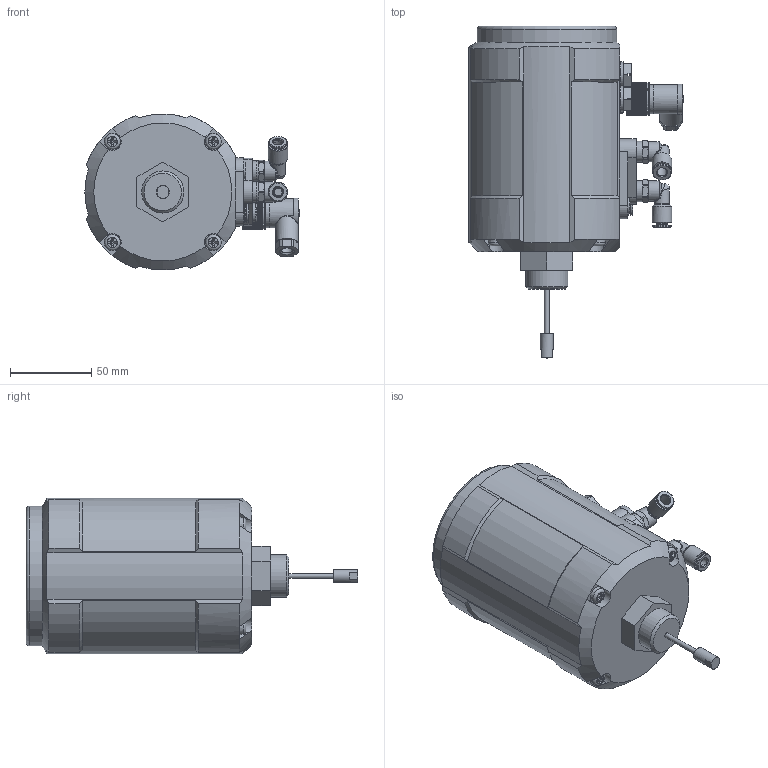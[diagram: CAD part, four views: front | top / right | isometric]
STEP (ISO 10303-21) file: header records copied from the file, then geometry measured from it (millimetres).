
FILE_DESCRIPTION(('STEP AP242'), '1');
FILE_NAME('ÝÈÏ-1500 Ýëåêòðîïíåâìàòè÷åñêèé ïîçèöèîíåð DN.ru', '2026-04-22T17:57:45', ('R2D2'), (''), 'C3D Converter', 'C3D Toolkit', '');
FILE_SCHEMA(('AP242_MANAGED_MODEL_BASED_3D_ENGINEERING_MIM_LF { 1 0 10303 442 1 1 4 }'));
Length unit declared in the file: millimetre
Products named in the file (1): ЭИП-1500
Bounding box: 132 x 204.5 x 96 mm (x, y, z)
Volume: 6445.5 mm3; surface area: 76778.9 mm2
Topology: 7 solids, 144 shells, 3279 faces, 8961 edges, 5827 vertices
Faces by surface type: plane 2115, cone 546, cylinder 535, bspline 58, torus 22, sphere 3
Full cylindrical faces by diameter (mm): 0.8 x1, 1 x4, 3 x1, 5 x2, 6 x5, 6.15 x3, 7 x1, 7.3 x3, 8 x1, 8.3 x2, 9 x2, 9.6 x2, 10 x4, 10.106 x1, 10.6 x1, 10.939 x2, 11.5 x3, 11.81 x2, 12 x7, 12.5 x2, 12.9 x2, 13 x1, 13.939 x1, 14 x1, 15 x1, 16 x3, 18 x2, 26 x1, 86 x1
Entity records: 154120 total; most frequent: CARTESIAN_POINT 50507, ORIENTED_EDGE 17394, DIRECTION 14840, EDGE_CURVE 8705, VERTEX_POINT 5767, LINE 5530, VECTOR 5530, AXIS2_PLACEMENT_3D 4655
